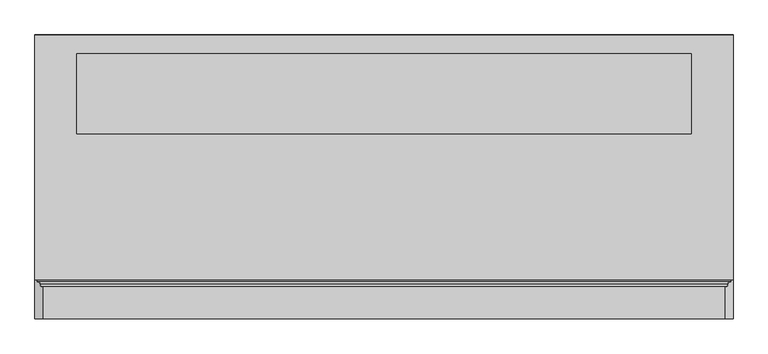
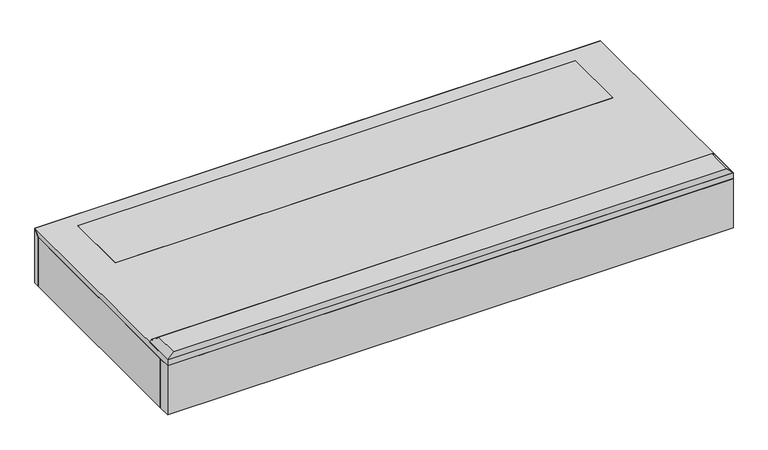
"""IFC4 building model written with IfcOpenShell, lengths in millimetres: proxy geometry, CCN^BRIGHTON_L4-RETURN KNEE WALL-PARTS SOLID."""

from ifc_helpers import new_model, si_unit, frame, origin, place, context, project, spatial, polyline, ellipse_curve, outline, extrude, source, transform, mapped, element, save
from ifc_brep_helpers import plane_surface, cylinder_surface, revolved_surface, advanced_brep


def generic_models_9f5c36b0(model_context):
    return source(origin(), model_context, "Body", "SolidModel", [
        extrude(outline(polyline([(3276.6101405, 38.1), (3257.5601405, 38.1), (3257.5601405, 685.8), (3276.6101405, 685.8), (3276.6101405, 38.1)])), frame((0.0, 0.0, -177.8), z_axis=(0.0, 0.0, 1.0), x_axis=(1.0, 0.0, 0.0)), (0.0, 0.0, 1.0), 158.75),
        advanced_brep(
        [(4972.0702811, 0.0, 19.05), (4991.1202811, 0.0, 0.0), (4991.1202811, 95.25, 0.0), (4984.7702811, 95.25, 6.35), (4984.7702811, 92.075, 6.35), (4978.4202811, 85.725, 12.7), (4972.0702811, 79.375, 19.05), (3263.9101405, 95.25, 6.35), (3263.9101405, 92.075, 6.35), (3257.5601405, 95.25, 0.0), (3276.6101405, 0.0, 19.05), (3257.5601405, 0.0, 0.0), (3276.6101405, 79.375, 19.05), (3270.2601405, 85.725, 12.7)],
        [
            (0, 1),
            (1, 2),
            (2, 3),
            (3, 4),
            (4, 5, ellipse_curve(frame((4984.7702811, 85.725, 6.35), z_axis=(0.7071067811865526, 0.0, 0.7071067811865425), x_axis=(-0.7071067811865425, 0.0, 0.7071067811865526)), 8.9802561, 6.35)),
            (5, 6, ellipse_curve(frame((4972.0702811, 85.725, 19.05), z_axis=(-0.7071067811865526, 0.0, -0.7071067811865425), x_axis=(-0.7071067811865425, 0.0, 0.7071067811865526)), 8.9802561, 6.35)),
            (6, 0),
            (3, 7),
            (7, 8),
            (8, 4),
            (2, 9),
            (9, 7),
            (0, 10),
            (10, 11),
            (11, 1),
            (12, 13, ellipse_curve(frame((3276.6101405, 85.725, 19.05), z_axis=(0.7071067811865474, 0.0, -0.7071067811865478), x_axis=(-0.7071067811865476, 0.0, -0.7071067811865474)), 8.9802561, 6.35)),
            (13, 8, ellipse_curve(frame((3263.9101405, 85.725, 6.35), z_axis=(-0.7071067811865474, 0.0, 0.7071067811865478), x_axis=(-0.7071067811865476, 0.0, -0.7071067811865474)), 8.9802561, 6.35)),
            (9, 11),
            (10, 12),
            (6, 12),
            (5, 13),
        ],
        [
            plane_surface(frame((4981.5952811, 71.4375, 9.525), z_axis=(0.7071067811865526, 0.0, 0.7071067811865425), x_axis=(0.7071067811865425, 0.0, -0.7071067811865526))),
            plane_surface(frame((3257.5601405, 95.25, 6.35), z_axis=(0.0, 0.0, 1.0), x_axis=(0.0, -1.0, 0.0))),
            plane_surface(frame((3257.5601405, 95.25, 0.0), z_axis=(0.0, 1.0, 0.0), x_axis=(1.0, 0.0, 0.0))),
            plane_surface(frame((4991.1202811, 0.0, 0.0), z_axis=(0.0, -1.0, 0.0), x_axis=(-1.0, 0.0, 0.0))),
            plane_surface(frame((3267.0851405, 23.8125, 9.525), z_axis=(-0.7071067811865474, 0.0, 0.7071067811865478), x_axis=(-0.7071067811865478, 0.0, -0.7071067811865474))),
            plane_surface(frame((4124.3402108, 47.625, 19.05), z_axis=(0.0, 0.0, 1.0), x_axis=(-1.0, 0.0, 0.0))),
            revolved_surface(polyline([(3270.2601405, 79.375, 19.05), (4978.4202811, 79.375, 19.05)]), (3257.5601405, 85.725, 19.05), (-1.0, 0.0, 0.0)),
            cylinder_surface(frame((3257.5601405, 85.725, 6.35), z_axis=(-1.0, 0.0, 0.0), x_axis=(0.0, -1.0, 0.0)), 6.35),
            plane_surface(frame((4124.3402108, 47.625, 0.0), z_axis=(0.0, 0.0, -1.0), x_axis=(-1.0, 0.0, 0.0))),
        ],
        [
            (0, [[1, 2, 3, 4, 5, 6, 7]]),
            (1, [[-4, 8, 9, 10]]),
            (2, [[-3, 11, 12, -8]]),
            (3, [[-1, 13, 14, 15]]),
            (4, [[16, 17, -9, -12, 18, -14, 19]]),
            (5, [[-7, 20, -19, -13]]),
            (6, [[-6, 21, -16, -20]]),
            (7, [[-5, -10, -17, -21]]),
            (8, [[-15, -18, -11, -2]]),
        ],
    ),
        extrude(outline(polyline([(4972.0702811, 685.8), (4991.1202811, 685.8), (4991.1202811, 38.1), (4972.0702811, 38.1), (4972.0702811, 685.8)])), frame((0.0, 0.0, -177.8), z_axis=(0.0, 0.0, 1.0), x_axis=(1.0, 0.0, 0.0)), (0.0, 0.0, 1.0), 158.75),
        extrude(outline(polyline([(685.8, -19.05), (704.85, 0.0), (704.85, -177.8), (685.8, -177.8), (685.8, -19.05)])), frame((3257.5601405, 0.0, 0.0), z_axis=(1.0, 0.0, 0.0), x_axis=(0.0, 1.0, 0.0)), (0.0, 0.0, 1.0), 1733.5601405),
        extrude(outline(polyline([(4887.1390311, 459.58125), (3361.5413905, 459.58125), (3361.5413905, 658.01875), (4887.1390311, 658.01875), (4887.1390311, 459.58125)])), frame((0.0, 0.0, -19.05), z_axis=(0.0, 0.0, 1.0), x_axis=(1.0, 0.0, 0.0)), (0.0, 0.0, 1.0), 19.05),
        extrude(outline(polyline([(4991.1202811, 0.0), (3257.5601405, 0.0), (3257.5601405, 38.1), (4991.1202811, 38.1), (4991.1202811, 0.0)])), frame((0.0, 0.0, -177.8), z_axis=(0.0, 0.0, 1.0), x_axis=(1.0, 0.0, 0.0)), (0.0, 0.0, 1.0), 158.75),
        extrude(outline(polyline([(704.85, 0.0), (685.8, -19.05), (0.0, -19.05), (0.0, 0.0), (704.85, 0.0)])), frame((3257.5601405, 0.0, 0.0), z_axis=(1.0, 0.0, 0.0), x_axis=(0.0, 1.0, 0.0)), (0.0, 0.0, 1.0), 1733.5601405),
    ])


if __name__ == "__main__":
    model = new_model("IFC4")
    model_context = context("Model", 3, world=origin())
    ifc_project = project(units=[si_unit("LENGTHUNIT", "METRE", prefix="MILLI")], contexts=[model_context])
    site = spatial("IfcSite", under=ifc_project)
    building = spatial("IfcBuilding", under=site)
    placement = place(None, origin())
    generic_models_shape = generic_models_9f5c36b0(model_context)
    element("IfcBuildingElementProxy", 1, Name="CCN^BRIGHTON_L4-RETURN KNEE WALL-PARTS SOLID", ObjectType="CCN^BRIGHTON_L4-RETURN KNEE WALL-PARTS SOLID", at=placement, inside=building, context=model_context, shape_type="MappedRepresentation", body=[
        mapped(generic_models_shape, transform((0.0, 0.0, 0.0), x_axis=(1.0, 0.0, 0.0), y_axis=(0.0, 1.0, 0.0), z_axis=(0.0, 0.0, 1.0))),
    ])
    save(model, "model.ifc")
